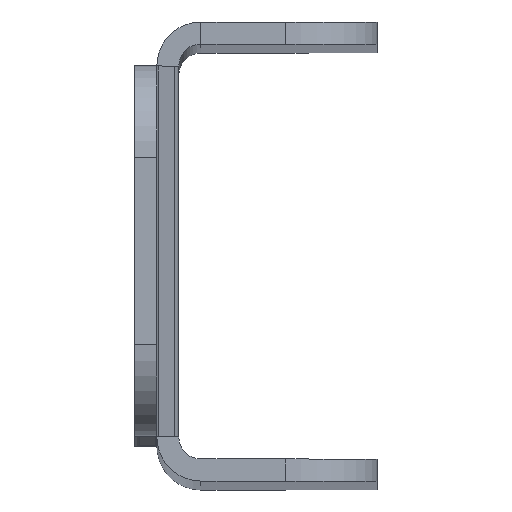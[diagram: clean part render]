
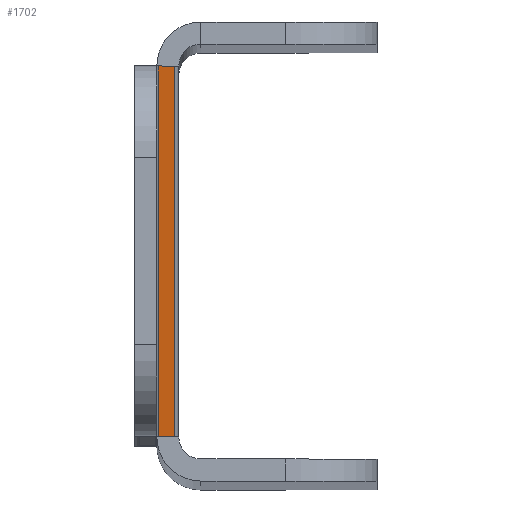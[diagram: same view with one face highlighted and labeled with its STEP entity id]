
A CAD part, top view. The second image highlights one B-rep face of the part: STEP entity #1702.
In plain terms, the highlighted planar face has unit normal (0.866, 0, 0.5).
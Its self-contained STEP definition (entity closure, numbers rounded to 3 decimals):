
#29 = DIRECTION ( 'NONE',  ( 0.5, 0., -0.866 ) ) ;
#47 = CARTESIAN_POINT ( 'NONE',  ( -7.765, 10.1, 156.028 ) ) ;
#302 = CARTESIAN_POINT ( 'NONE',  ( -7.765, -10.1, 156.028 ) ) ;
#313 = DIRECTION ( 'NONE',  ( -0.866, 0., -0.5 ) ) ;
#465 = LINE ( 'NONE', #47, #1231 ) ;
#486 = DIRECTION ( 'NONE',  ( 0., 1., 0. ) ) ;
#508 = CARTESIAN_POINT ( 'NONE',  ( 0.959, 12.5, 140.918 ) ) ;
#534 = CARTESIAN_POINT ( 'NONE',  ( 0.08, -10.1, 142.439 ) ) ;
#535 = AXIS2_PLACEMENT_3D ( 'NONE', #2246, #313, #1106 ) ;
#653 = LINE ( 'NONE', #1199, #667 ) ;
#667 = VECTOR ( 'NONE', #1216, 1000. ) ;
#948 = ORIENTED_EDGE ( 'NONE', *, *, #2704, .T. ) ;
#1020 = VECTOR ( 'NONE', #1673, 1000. ) ;
#1073 = CARTESIAN_POINT ( 'NONE',  ( 0.959, 10.1, 140.918 ) ) ;
#1106 = DIRECTION ( 'NONE',  ( 0., -1., 0. ) ) ;
#1168 = CARTESIAN_POINT ( 'NONE',  ( 0.959, -10.1, 140.918 ) ) ;
#1199 = CARTESIAN_POINT ( 'NONE',  ( 0.08, 12.5, 142.439 ) ) ;
#1216 = DIRECTION ( 'NONE',  ( 0., 1., 0. ) ) ;
#1231 = VECTOR ( 'NONE', #29, 1000. ) ;
#1378 = EDGE_CURVE ( 'NONE', #2687, #1904, #653, .T. ) ;
#1610 = EDGE_CURVE ( 'NONE', #1904, #3525, #465, .T. ) ;
#1640 = LINE ( 'NONE', #302, #1020 ) ;
#1673 = DIRECTION ( 'NONE',  ( 0.5, 0., -0.866 ) ) ;
#1702 = ADVANCED_FACE ( 'NONE', ( #2486 ), #3589, .F. ) ;
#1874 = ORIENTED_EDGE ( 'NONE', *, *, #1378, .F. ) ;
#1904 = VERTEX_POINT ( 'NONE', #2609 ) ;
#2119 = VECTOR ( 'NONE', #486, 1000. ) ;
#2246 = CARTESIAN_POINT ( 'NONE',  ( -7.765, 12.5, 156.028 ) ) ;
#2486 = FACE_OUTER_BOUND ( 'NONE', #2859, .T. ) ;
#2609 = CARTESIAN_POINT ( 'NONE',  ( 0.08, 10.1, 142.439 ) ) ;
#2687 = VERTEX_POINT ( 'NONE', #534 ) ;
#2704 = EDGE_CURVE ( 'NONE', #2687, #3251, #1640, .T. ) ;
#2727 = ORIENTED_EDGE ( 'NONE', *, *, #3460, .T. ) ;
#2859 = EDGE_LOOP ( 'NONE', ( #1874, #948, #2727, #3541 ) ) ;
#3251 = VERTEX_POINT ( 'NONE', #1168 ) ;
#3460 = EDGE_CURVE ( 'NONE', #3251, #3525, #3519, .T. ) ;
#3519 = LINE ( 'NONE', #508, #2119 ) ;
#3525 = VERTEX_POINT ( 'NONE', #1073 ) ;
#3541 = ORIENTED_EDGE ( 'NONE', *, *, #1610, .F. ) ;
#3589 = PLANE ( 'NONE',  #535 ) ;
